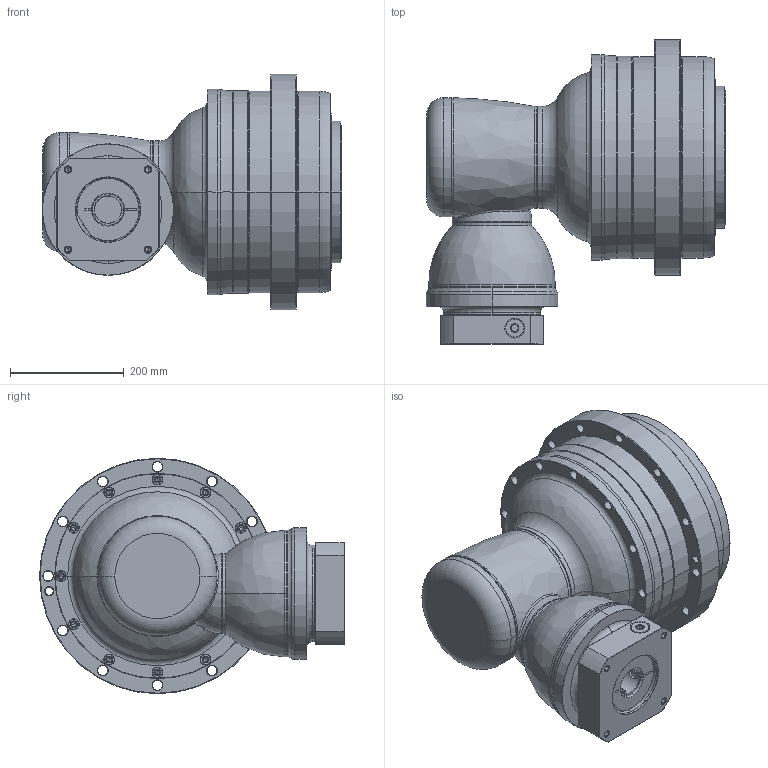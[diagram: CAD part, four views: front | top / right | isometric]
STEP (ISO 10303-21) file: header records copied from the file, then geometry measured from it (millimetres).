
FILE_DESCRIPTION((''),'2;1');
FILE_NAME('AHKA355_3ST_48-P0409B00101_ASM','2016-12-07T',('d01943'),(''),'PRO/ENGINEER BY PARAMETRIC TECHNOLOGY CORPORATION, 2008410','PRO/ENGINEER BY PARAMETRIC TECHNOLOGY CORPORATION, 2008410','');
FILE_SCHEMA(('CONFIG_CONTROL_DESIGN'));
Length unit declared in the file: millimetre
Products named in the file (12): P1008600002; P1821100001; P0276100003; P0357100003; P1315600001; P1007600001; P1318600401; P0409B00101; P0503B00016; P0912604201; 21711426021; AHKA355_3ST_48-P0409B00101_ASM
Assembly tree (11 placements, depth 2):
  AHKA355_3ST_48-P0409B00101_ASM
    P1008600002
    P1821100001
    P0276100003
    P0357100003
    P1315600001
    P1007600001
    P1318600401
    P0409B00101
    P0503B00016
    P0912604201
    21711426021
Bounding box: 528 x 537 x 415 mm (x, y, z)
Volume: 37030844.9 mm3; surface area: 1835712.7 mm2
Topology: 12 solids, 12 shells, 953 faces, 2117 edges, 1225 vertices
Faces by surface type: cylinder 334, cone 330, torus 128, plane 124, bspline 35, sphere 2
Entity records: 32805 total; most frequent: CARTESIAN_POINT 11037, DIRECTION 5018, ORIENTED_EDGE 4122, AXIS2_PLACEMENT_3D 2144, EDGE_CURVE 2061, VERTEX_POINT 1225, CIRCLE 1203, EDGE_LOOP 1146
